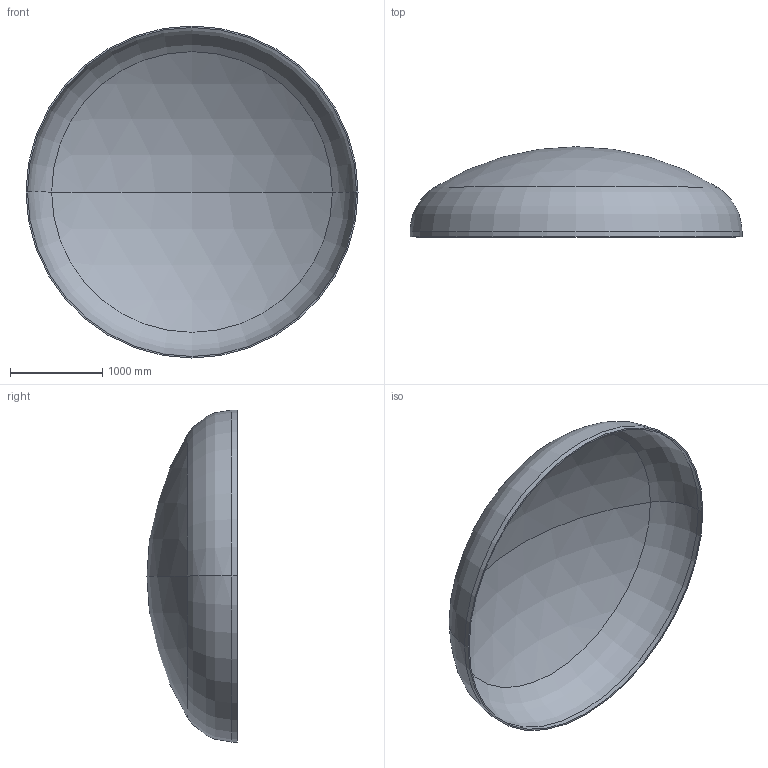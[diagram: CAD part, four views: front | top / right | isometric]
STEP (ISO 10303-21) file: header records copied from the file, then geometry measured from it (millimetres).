
FILE_DESCRIPTION (( 'STEP AP203' ), '1' );
FILE_NAME ('DIN 28013 Korbbogenform_-_Boden DIN 28013 - 3600 x 55 - I - s=16.step', '2016-07-01T20:08:29', ( '' ), ( '' ), 'SwSTEP 2.0', 'SolidWorks 2013', '' );
FILE_SCHEMA (( 'CONFIG_CONTROL_DESIGN' ));
Length unit declared in the file: millimetre
Products named in the file (1): DIN 28013 Korbbogenform_-_Boden DIN 28013 - 3600 x 55 - I - s=16
Bounding box: 3600 x 977.38 x 3600 mm (x, y, z)
Volume: 234202966.5 mm3; surface area: 29456046.9 mm2
Topology: 1 solids, 1 shells, 13 faces, 24 edges, 14 vertices
Faces by surface type: torus 4, cylinder 4, sphere 4, plane 1
Entity records: 407 total; most frequent: DIRECTION 72, CARTESIAN_POINT 52, ORIENTED_EDGE 48, AXIS2_PLACEMENT_3D 34, EDGE_CURVE 24, CIRCLE 20, VERTEX_POINT 14, EDGE_LOOP 14
